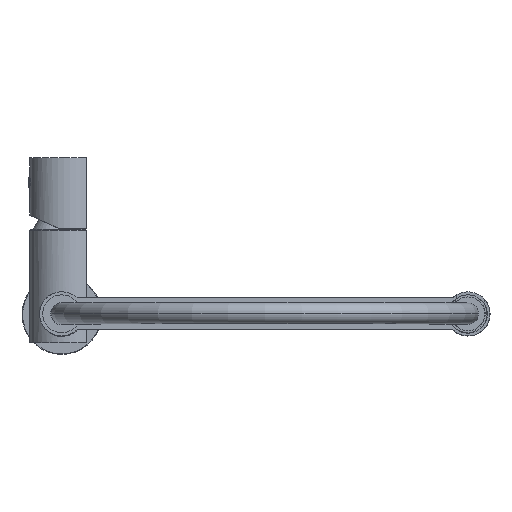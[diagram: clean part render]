
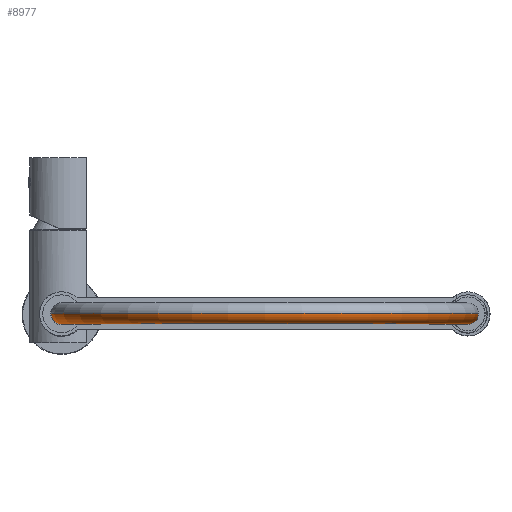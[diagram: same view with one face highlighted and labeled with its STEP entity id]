
A CAD part, top view. The second image highlights one B-rep face of the part: STEP entity #8977.
In plain terms, the highlighted toroidal (fillet/blend) face has major radius 115 mm and minor radius 6 mm.
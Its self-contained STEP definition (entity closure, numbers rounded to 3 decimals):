
#7329=CARTESIAN_POINT('',(228.,16.,264.5));
#7330=DIRECTION('',(0.,0.,-1.));
#7331=DIRECTION('',(1.,0.,0.));
#7332=AXIS2_PLACEMENT_3D('',#7329,#7330,#7331);
#7334=CARTESIAN_POINT('',(-2.,16.,264.5));
#7335=DIRECTION('',(0.,0.,1.));
#7336=DIRECTION('',(-1.,0.,0.));
#7337=AXIS2_PLACEMENT_3D('',#7334,#7335,#7336);
#7339=CARTESIAN_POINT('',(113.,16.,264.5));
#7340=DIRECTION('',(0.,1.,0.));
#7341=DIRECTION('',(-1.,0.,0.));
#7342=AXIS2_PLACEMENT_3D('',#7339,#7340,#7341);
#7367=CARTESIAN_POINT('',(113.,16.,264.5));
#7368=DIRECTION('',(0.,1.,0.));
#7369=DIRECTION('',(-1.,0.,0.));
#7370=AXIS2_PLACEMENT_3D('',#7367,#7368,#7369);
#7655=CARTESIAN_POINT('',(4.,16.,264.5));
#7656=CARTESIAN_POINT('',(-8.,16.,264.5));
#7657=VERTEX_POINT('',#7655);
#7658=VERTEX_POINT('',#7656);
#7659=CARTESIAN_POINT('',(222.,16.,264.5));
#7660=CARTESIAN_POINT('',(234.,16.,264.5));
#7661=VERTEX_POINT('',#7659);
#7662=VERTEX_POINT('',#7660);
#8963=CARTESIAN_POINT('',(113.,16.,264.5));
#8964=DIRECTION('',(0.,1.,0.));
#8965=DIRECTION('',(1.,0.,0.));
#8966=AXIS2_PLACEMENT_3D('',#8963,#8964,#8965);
#8967=TOROIDAL_SURFACE('',#8966,115.,6.);
#8969=ORIENTED_EDGE('',*,*,#8968,.F.);
#8971=ORIENTED_EDGE('',*,*,#8970,.T.);
#8972=ORIENTED_EDGE('',*,*,#8957,.T.);
#8974=ORIENTED_EDGE('',*,*,#8973,.F.);
#8975=EDGE_LOOP('',(#8969,#8971,#8972,#8974));
#8976=FACE_OUTER_BOUND('',#8975,.F.);
#8977=ADVANCED_FACE('',(#8976),#8967,.T.);
#7333=CIRCLE('',#7332,6.);
#7338=CIRCLE('',#7337,6.);
#7343=CIRCLE('',#7342,121.);
#7371=CIRCLE('',#7370,109.);
#8957=EDGE_CURVE('',#7662,#7661,#7333,.T.);
#8968=EDGE_CURVE('',#7658,#7657,#7338,.T.);
#8970=EDGE_CURVE('',#7658,#7662,#7343,.T.);
#8973=EDGE_CURVE('',#7657,#7661,#7371,.T.);
